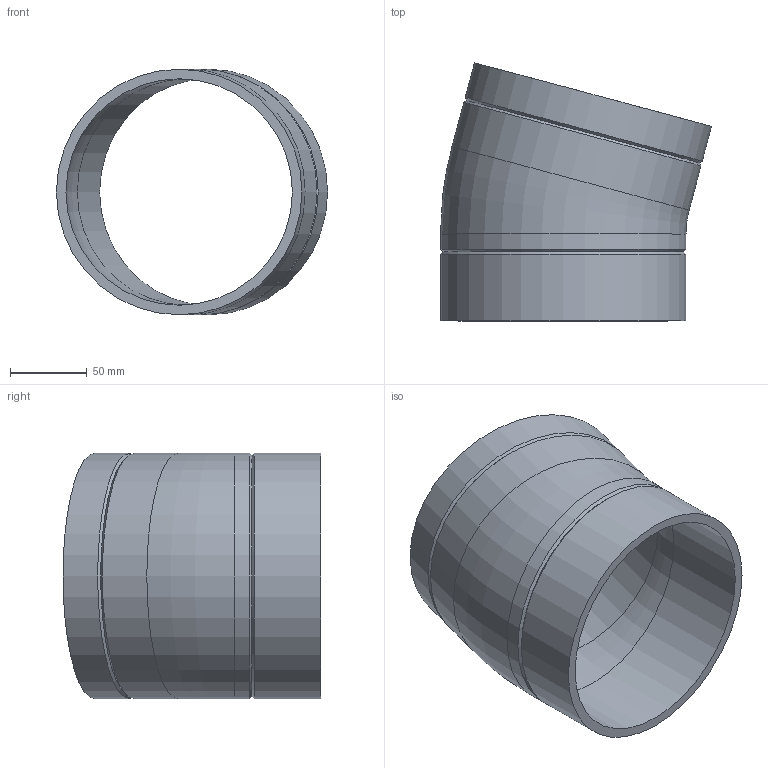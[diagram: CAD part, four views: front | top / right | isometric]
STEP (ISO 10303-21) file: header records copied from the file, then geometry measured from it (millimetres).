
FILE_DESCRIPTION(/* description */ (''),/* implementation_level */ '2;1');
FILE_NAME(/* name */ 'Z:\Geberit\Export\NewStep\PE Bogen Einzelteil_Ipart\stp\369015.stp',/* time_stamp */ '2014-04-02T11:56:06+02:00',/* author */ ('bruh'),/* organization */ (''),/* preprocessor_version */ 'ST-DEVELOPER v15.2',/* originating_system */ 'Autodesk Inventor 2014',/* authorisation */ '');
FILE_SCHEMA (('AUTOMOTIVE_DESIGN { 1 0 10303 214 3 1 1 }'));
Length unit declared in the file: millimetre
Products named in the file (1): 369015
Bounding box: 176.69 x 168.15 x 160 mm (x, y, z)
Volume: 446166.7 mm3; surface area: 152027.8 mm2
Topology: 1 solids, 1 shells, 14 faces, 28 edges, 16 vertices
Faces by surface type: cylinder 6, cone 4, torus 2, plane 2
Full cylindrical faces by diameter (mm): 147.6 x2, 160 x4
Entity records: 323 total; most frequent: DIRECTION 58, CARTESIAN_POINT 43, AXIS2_PLACEMENT_3D 29, EDGE_LOOP 28, ORIENTED_EDGE 28, FACE_BOUND 16, STYLED_ITEM 15, CIRCLE 14
